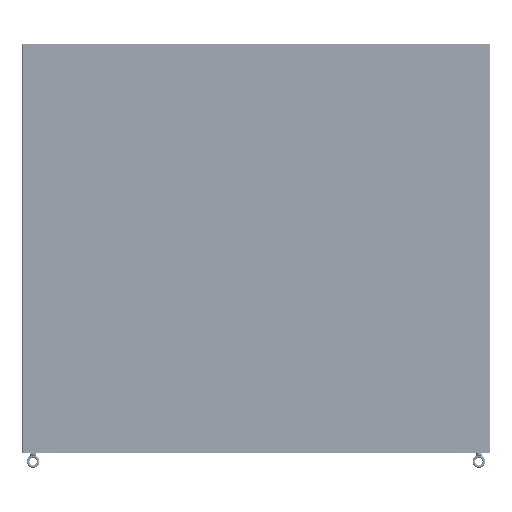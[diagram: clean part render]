
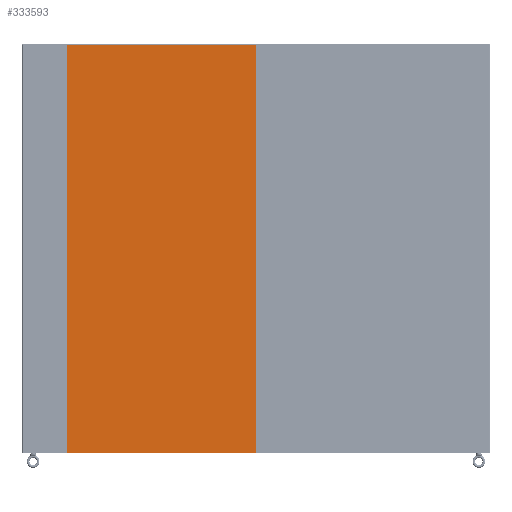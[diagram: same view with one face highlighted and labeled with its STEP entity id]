
A CAD part, left-side view. The second image highlights one B-rep face of the part: STEP entity #333593.
In plain terms, the highlighted planar face has unit normal (-1, 0, 0) as drawn and (0, 0, -1) by its records, which use the part's own axes.
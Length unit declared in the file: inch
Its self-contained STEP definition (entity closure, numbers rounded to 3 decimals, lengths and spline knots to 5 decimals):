
#333155=CARTESIAN_POINT('',(-15.6475,33.856,-0.104));
#333156=DIRECTION('',(0.,0.,-1.));
#333157=DIRECTION('',(-1.,0.,0.));
#333158=AXIS2_PLACEMENT_3D('',#333155,#333156,#333157);
#333163=DIRECTION('',(0.,-1.,0.));
#333164=VECTOR('',#333163,67.712);
#333165=CARTESIAN_POINT('',(-15.6875,33.856,-0.104));
#333166=LINE('',#333165,#333164);
#333170=CARTESIAN_POINT('',(-15.6475,-33.856,-0.104));
#333171=DIRECTION('',(0.,0.,-1.));
#333172=DIRECTION('',(0.,-1.,0.));
#333173=AXIS2_PLACEMENT_3D('',#333170,#333171,#333172);
#333178=DIRECTION('',(1.,0.,0.));
#333179=VECTOR('',#333178,31.295);
#333180=CARTESIAN_POINT('',(-15.6475,-33.896,-0.104));
#333181=LINE('',#333180,#333179);
#333185=CARTESIAN_POINT('',(15.6475,-33.856,-0.104));
#333186=DIRECTION('',(0.,0.,-1.));
#333187=DIRECTION('',(1.,0.,0.));
#333188=AXIS2_PLACEMENT_3D('',#333185,#333186,#333187);
#333193=DIRECTION('',(0.,1.,0.));
#333194=VECTOR('',#333193,67.712);
#333195=CARTESIAN_POINT('',(15.6875,-33.856,-0.104));
#333196=LINE('',#333195,#333194);
#333200=CARTESIAN_POINT('',(15.6475,33.856,-0.104));
#333201=DIRECTION('',(0.,0.,-1.));
#333202=DIRECTION('',(0.,1.,0.));
#333203=AXIS2_PLACEMENT_3D('',#333200,#333201,#333202);
#333208=DIRECTION('',(-1.,0.,0.));
#333209=VECTOR('',#333208,31.295);
#333210=CARTESIAN_POINT('',(15.6475,33.896,-0.104));
#333211=LINE('',#333210,#333209);
#333309=CARTESIAN_POINT('',(-15.6875,33.856,-0.104));
#333310=VERTEX_POINT('',#333309);
#333311=CARTESIAN_POINT('',(-15.6475,33.896,-0.104));
#333312=VERTEX_POINT('',#333311);
#333317=CARTESIAN_POINT('',(-15.6475,-33.896,-0.104));
#333318=VERTEX_POINT('',#333317);
#333319=CARTESIAN_POINT('',(-15.6875,-33.856,-0.104));
#333320=VERTEX_POINT('',#333319);
#333325=CARTESIAN_POINT('',(15.6475,33.896,-0.104));
#333326=VERTEX_POINT('',#333325);
#333327=CARTESIAN_POINT('',(15.6475,-33.896,-0.104));
#333328=VERTEX_POINT('',#333327);
#333331=CARTESIAN_POINT('',(15.6875,33.856,-0.104));
#333332=VERTEX_POINT('',#333331);
#333335=CARTESIAN_POINT('',(15.6875,-33.856,-0.104));
#333336=VERTEX_POINT('',#333335);
#333578=CARTESIAN_POINT('',(0.,0.,-0.104));
#333579=DIRECTION('',(0.,0.,1.));
#333580=DIRECTION('',(1.,0.,0.));
#333581=AXIS2_PLACEMENT_3D('',#333578,#333579,#333580);
#333582=PLANE('',#333581);
#333583=ORIENTED_EDGE('',*,*,#333418,.F.);
#333584=ORIENTED_EDGE('',*,*,#333441,.T.);
#333585=ORIENTED_EDGE('',*,*,#333461,.F.);
#333586=ORIENTED_EDGE('',*,*,#333483,.T.);
#333587=ORIENTED_EDGE('',*,*,#333503,.F.);
#333588=ORIENTED_EDGE('',*,*,#333523,.T.);
#333589=ORIENTED_EDGE('',*,*,#333545,.F.);
#333590=ORIENTED_EDGE('',*,*,#333564,.T.);
#333591=EDGE_LOOP('',(#333583,#333584,#333585,#333586,#333587,#333588,#333589,
#333590));
#333592=FACE_OUTER_BOUND('',#333591,.F.);
#333159=CIRCLE('',#333158,0.04);
#333174=CIRCLE('',#333173,0.04);
#333189=CIRCLE('',#333188,0.04);
#333204=CIRCLE('',#333203,0.04);
#333418=EDGE_CURVE('',#333310,#333312,#333159,.T.);
#333441=EDGE_CURVE('',#333310,#333320,#333166,.T.);
#333461=EDGE_CURVE('',#333318,#333320,#333174,.T.);
#333483=EDGE_CURVE('',#333318,#333328,#333181,.T.);
#333503=EDGE_CURVE('',#333336,#333328,#333189,.T.);
#333523=EDGE_CURVE('',#333336,#333332,#333196,.T.);
#333545=EDGE_CURVE('',#333326,#333332,#333204,.T.);
#333564=EDGE_CURVE('',#333326,#333312,#333211,.T.);
#333593=ADVANCED_FACE('',(#333592),#333582,.F.);
